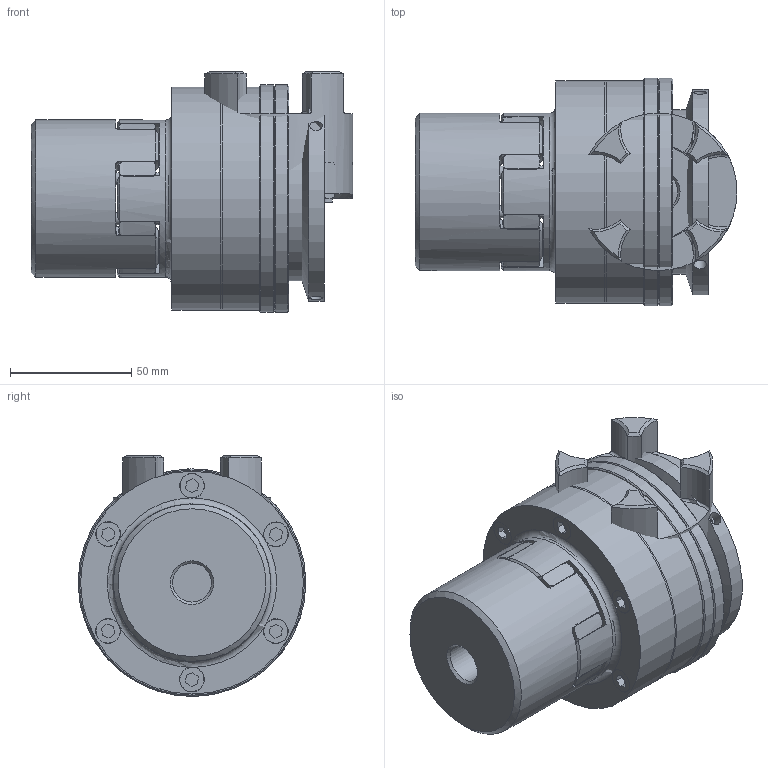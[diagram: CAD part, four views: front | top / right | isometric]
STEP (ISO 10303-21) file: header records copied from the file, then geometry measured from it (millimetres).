
FILE_DESCRIPTION( ( 'Unknown' ), '1' );
FILE_NAME( 'K:/Daten/homepage/cad - homepage/KBK-E-PP/KBK EPP-28.stp', 'Unknown', ( 'Unknown' ), ( 'Unknown' ), 'XStep 1.0', 'Unknown', ' ' );
FILE_SCHEMA( ( 'automotive_design' ) );
Length unit declared in the file: millimetre
Products named in the file (15): Assem1; Assem2; Assem3; ball_bearing_-_6008_0_01; ball_bearing_-_6008_0_02; ball_bearing_-_6008_0_03; Zylinderschraube DIN 912_0; Stellring 80; Druckring 80; Flansch 80; a_40; Zahnkranz EK28_Standard; KBE 1 - 28_Nabe; Elastomerflansch 28; KBK L-P-80 Grundkörper
Bounding box: 132.95 x 94 x 99.5 mm (x, y, z)
Volume: 993120.8 mm3; surface area: 296362.9 mm2
Topology: 33 solids, 33 shells, 783 faces, 1830 edges, 1179 vertices
Faces by surface type: cylinder 284, plane 260, cone 192, torus 47
Full cylindrical faces by diameter (mm): 2.5 x4, 3.242 x6, 4.917 x12, 5 x26, 5.2 x6, 6 x8, 6.2 x12, 10 x8, 10.2 x12, 16 x2, 30 x6, 37.5 x2, 40 x7, 49.2 x6, 59.1 x6, 61 x2, 62 x4, 65 x4, 68 x7, 70 x2, 85 x2, 87 x2, 90 x4, 92 x2, 94 x2
Entity records: 10691 total; most frequent: CARTESIAN_POINT 2475, DIRECTION 1665, ORIENTED_EDGE 1318, AXIS2_PLACEMENT_3D 770, EDGE_CURVE 659, EDGE_LOOP 521, VERTEX_POINT 476, FACE_OUTER_BOUND 422
